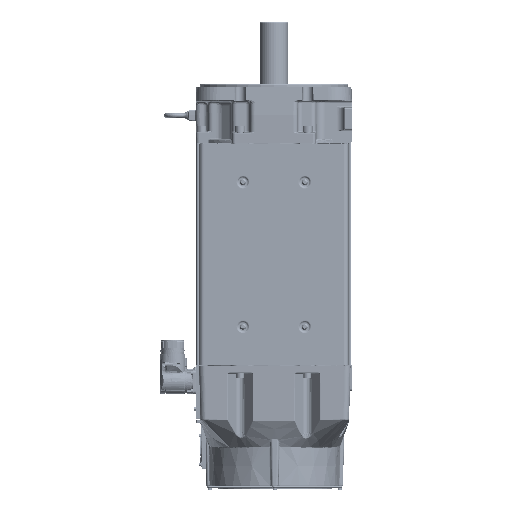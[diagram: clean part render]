
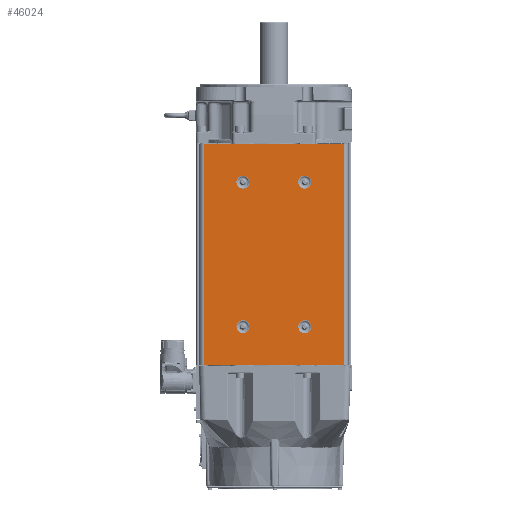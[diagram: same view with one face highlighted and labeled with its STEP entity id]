
A CAD part, left-side view. The second image highlights one B-rep face of the part: STEP entity #46024.
In plain terms, the highlighted planar face has unit normal (-1, 0, 0).
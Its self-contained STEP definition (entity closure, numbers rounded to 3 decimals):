
#44788=DIRECTION('',(0.,0.,-1.));
#44789=VECTOR('',#44788,372.3);
#44790=CARTESIAN_POINT('',(0.,-117.25,186.15));
#44791=LINE('',#44790,#44789);
#44882=DIRECTION('',(0.,1.,0.));
#44883=VECTOR('',#44882,234.5);
#44884=CARTESIAN_POINT('',(0.,-117.25,186.15));
#44885=LINE('',#44884,#44883);
#44894=DIRECTION('',(0.,0.,-1.));
#44895=VECTOR('',#44894,372.3);
#44896=CARTESIAN_POINT('',(0.,117.25,186.15));
#44897=LINE('',#44896,#44895);
#44898=CARTESIAN_POINT('',(0.,-52.,121.65));
#44899=DIRECTION('',(-1.,0.,0.));
#44900=DIRECTION('',(0.,0.,1.));
#44901=AXIS2_PLACEMENT_3D('',#44898,#44899,#44900);
#44903=CARTESIAN_POINT('',(0.,-52.,121.65));
#44904=DIRECTION('',(-1.,0.,0.));
#44905=DIRECTION('',(0.,0.,-1.));
#44906=AXIS2_PLACEMENT_3D('',#44903,#44904,#44905);
#44908=CARTESIAN_POINT('',(0.,-52.,-121.65));
#44909=DIRECTION('',(-1.,0.,0.));
#44910=DIRECTION('',(0.,0.,1.));
#44911=AXIS2_PLACEMENT_3D('',#44908,#44909,#44910);
#44913=CARTESIAN_POINT('',(0.,-52.,-121.65));
#44914=DIRECTION('',(-1.,0.,0.));
#44915=DIRECTION('',(0.,0.,-1.));
#44916=AXIS2_PLACEMENT_3D('',#44913,#44914,#44915);
#44918=CARTESIAN_POINT('',(0.,52.,121.65));
#44919=DIRECTION('',(-1.,0.,0.));
#44920=DIRECTION('',(0.,0.,1.));
#44921=AXIS2_PLACEMENT_3D('',#44918,#44919,#44920);
#44923=CARTESIAN_POINT('',(0.,52.,121.65));
#44924=DIRECTION('',(-1.,0.,0.));
#44925=DIRECTION('',(0.,0.,-1.));
#44926=AXIS2_PLACEMENT_3D('',#44923,#44924,#44925);
#44928=CARTESIAN_POINT('',(0.,52.,-121.65));
#44929=DIRECTION('',(-1.,0.,0.));
#44930=DIRECTION('',(0.,0.,1.));
#44931=AXIS2_PLACEMENT_3D('',#44928,#44929,#44930);
#44933=CARTESIAN_POINT('',(0.,52.,-121.65));
#44934=DIRECTION('',(-1.,0.,0.));
#44935=DIRECTION('',(0.,0.,-1.));
#44936=AXIS2_PLACEMENT_3D('',#44933,#44934,#44935);
#44938=DIRECTION('',(0.,1.,0.));
#44939=VECTOR('',#44938,234.5);
#44940=CARTESIAN_POINT('',(0.,-117.25,-186.15));
#44941=LINE('',#44940,#44939);
#45602=CARTESIAN_POINT('',(0.,-117.25,186.15));
#45603=CARTESIAN_POINT('',(0.,117.25,186.15));
#45604=VERTEX_POINT('',#45602);
#45605=VERTEX_POINT('',#45603);
#45614=CARTESIAN_POINT('',(0.,-117.25,-186.15));
#45615=CARTESIAN_POINT('',(0.,117.25,-186.15));
#45616=VERTEX_POINT('',#45614);
#45617=VERTEX_POINT('',#45615);
#45658=CARTESIAN_POINT('',(0.,-52.,132.635));
#45659=CARTESIAN_POINT('',(0.,-52.,110.665));
#45660=VERTEX_POINT('',#45658);
#45661=VERTEX_POINT('',#45659);
#45698=CARTESIAN_POINT('',(0.,-52.,-110.665));
#45699=CARTESIAN_POINT('',(0.,-52.,-132.635));
#45700=VERTEX_POINT('',#45698);
#45701=VERTEX_POINT('',#45699);
#45738=CARTESIAN_POINT('',(0.,52.,132.635));
#45739=CARTESIAN_POINT('',(0.,52.,110.665));
#45740=VERTEX_POINT('',#45738);
#45741=VERTEX_POINT('',#45739);
#45778=CARTESIAN_POINT('',(0.,52.,-110.665));
#45779=CARTESIAN_POINT('',(0.,52.,-132.635));
#45780=VERTEX_POINT('',#45778);
#45781=VERTEX_POINT('',#45779);
#45987=CARTESIAN_POINT('',(0.,117.25,186.15));
#45988=DIRECTION('',(-1.,0.,0.));
#45989=DIRECTION('',(0.,-1.,0.));
#45990=AXIS2_PLACEMENT_3D('',#45987,#45988,#45989);
#45991=PLANE('',#45990);
#45992=ORIENTED_EDGE('',*,*,#45978,.F.);
#45993=ORIENTED_EDGE('',*,*,#45861,.T.);
#45995=ORIENTED_EDGE('',*,*,#45994,.T.);
#45997=ORIENTED_EDGE('',*,*,#45996,.F.);
#45998=EDGE_LOOP('',(#45992,#45993,#45995,#45997));
#45999=FACE_OUTER_BOUND('',#45998,.F.);
#46001=ORIENTED_EDGE('',*,*,#46000,.T.);
#46003=ORIENTED_EDGE('',*,*,#46002,.T.);
#46004=EDGE_LOOP('',(#46001,#46003));
#46005=FACE_BOUND('',#46004,.F.);
#46007=ORIENTED_EDGE('',*,*,#46006,.T.);
#46009=ORIENTED_EDGE('',*,*,#46008,.T.);
#46010=EDGE_LOOP('',(#46007,#46009));
#46011=FACE_BOUND('',#46010,.F.);
#46013=ORIENTED_EDGE('',*,*,#46012,.T.);
#46015=ORIENTED_EDGE('',*,*,#46014,.T.);
#46016=EDGE_LOOP('',(#46013,#46015));
#46017=FACE_BOUND('',#46016,.F.);
#46019=ORIENTED_EDGE('',*,*,#46018,.T.);
#46021=ORIENTED_EDGE('',*,*,#46020,.T.);
#46022=EDGE_LOOP('',(#46019,#46021));
#46023=FACE_BOUND('',#46022,.F.);
#46024=ADVANCED_FACE('',(#45999,#46005,#46011,#46017,#46023),#45991,.T.);
#44902=CIRCLE('',#44901,10.985);
#44907=CIRCLE('',#44906,10.985);
#44912=CIRCLE('',#44911,10.985);
#44917=CIRCLE('',#44916,10.985);
#44922=CIRCLE('',#44921,10.985);
#44927=CIRCLE('',#44926,10.985);
#44932=CIRCLE('',#44931,10.985);
#44937=CIRCLE('',#44936,10.985);
#45861=EDGE_CURVE('',#45604,#45616,#44791,.T.);
#45978=EDGE_CURVE('',#45604,#45605,#44885,.T.);
#45994=EDGE_CURVE('',#45616,#45617,#44941,.T.);
#45996=EDGE_CURVE('',#45605,#45617,#44897,.T.);
#46000=EDGE_CURVE('',#45660,#45661,#44902,.T.);
#46002=EDGE_CURVE('',#45661,#45660,#44907,.T.);
#46006=EDGE_CURVE('',#45700,#45701,#44912,.T.);
#46008=EDGE_CURVE('',#45701,#45700,#44917,.T.);
#46012=EDGE_CURVE('',#45740,#45741,#44922,.T.);
#46014=EDGE_CURVE('',#45741,#45740,#44927,.T.);
#46018=EDGE_CURVE('',#45780,#45781,#44932,.T.);
#46020=EDGE_CURVE('',#45781,#45780,#44937,.T.);
